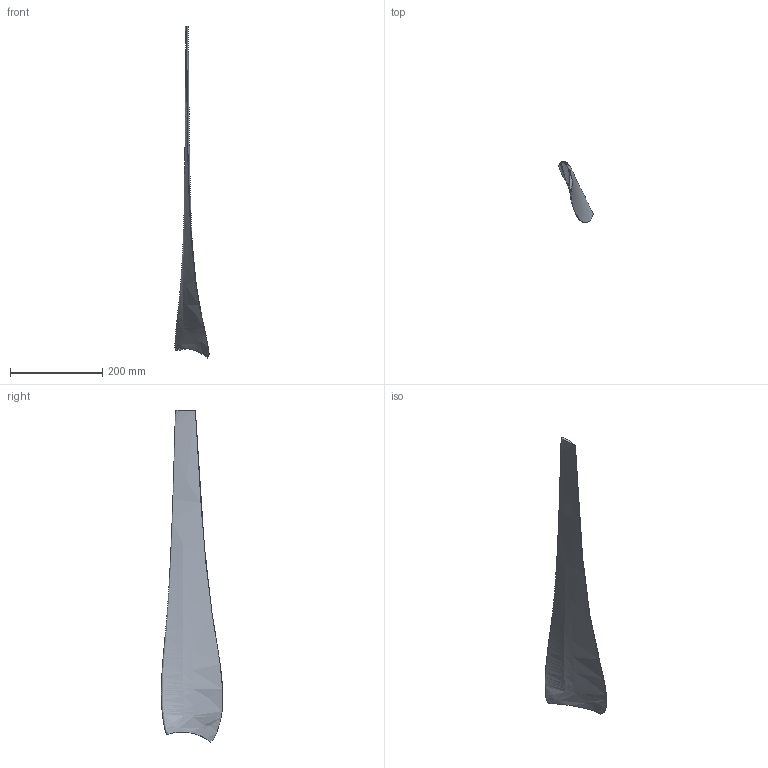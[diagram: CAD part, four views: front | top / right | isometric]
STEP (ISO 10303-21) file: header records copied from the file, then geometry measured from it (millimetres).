
FILE_DESCRIPTION (( 'STEP AP214' ), '1' );
FILE_NAME ('blade.STEP', '2022-08-22T16:06:50', ( '' ), ( '' ), 'SwSTEP 2.0', 'SolidWorks 2021', '' );
FILE_SCHEMA (( 'AUTOMOTIVE_DESIGN' ));
Length unit declared in the file: millimetre
Products named in the file (1): blade
Bounding box: 74.5 x 133.4 x 721.59 mm (x, y, z)
Volume: 624926.4 mm3; surface area: 131172.3 mm2
Topology: 1 solids, 1 shells, 4 faces, 6 edges, 4 vertices
Faces by surface type: cylinder 2, bspline 2
Entity records: 36548 total; most frequent: CARTESIAN_POINT 36424, ORIENTED_EDGE 12, B_SPLINE_CURVE_WITH_KNOTS 6, UNCERTAINTY_MEASURE_WITH_UNIT 6, EDGE_CURVE 6, DIRECTION 6, SURFACE_STYLE_USAGE 5, FILL_AREA_STYLE_COLOUR 5
